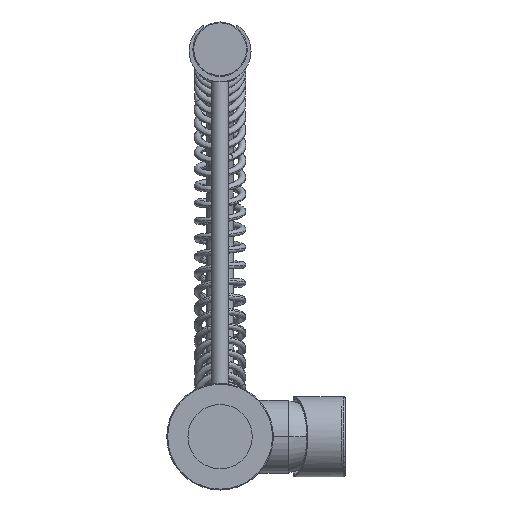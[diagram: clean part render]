
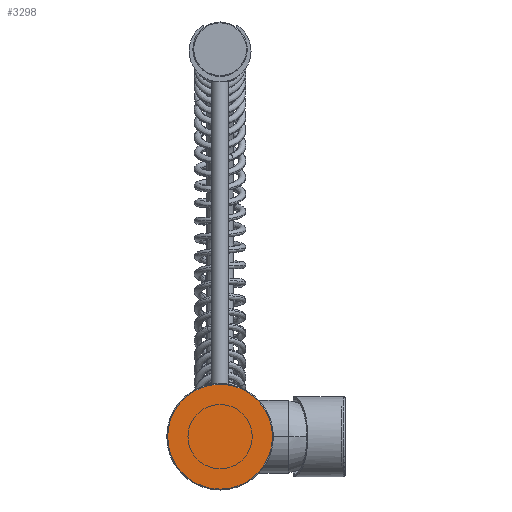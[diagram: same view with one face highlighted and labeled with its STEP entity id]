
A CAD part, front view. The second image highlights one B-rep face of the part: STEP entity #3298.
In plain terms, the highlighted planar face has unit normal (0, -1, 0).
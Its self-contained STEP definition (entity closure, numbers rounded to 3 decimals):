
#948=CARTESIAN_POINT('',(0.,-6.7,0.));
#949=DIRECTION('',(0.,-1.,0.));
#950=DIRECTION('',(1.,0.,0.));
#951=AXIS2_PLACEMENT_3D('',#948,#949,#950);
#957=CARTESIAN_POINT('',(0.,-6.7,0.));
#958=DIRECTION('',(0.,-1.,0.));
#959=DIRECTION('',(-1.,0.,0.));
#960=AXIS2_PLACEMENT_3D('',#957,#958,#959);
#2082=CARTESIAN_POINT('',(-29.35,-6.7,
0.));
#2083=VERTEX_POINT('',#2082);
#2084=CARTESIAN_POINT('',(29.35,-6.7,
0.));
#2085=VERTEX_POINT('',#2084);
#3288=CARTESIAN_POINT('',(0.,-6.7,0.));
#3289=DIRECTION('',(0.,1.,0.));
#3290=DIRECTION('',(1.,0.,0.));
#3291=AXIS2_PLACEMENT_3D('',#3288,#3289,#3290);
#3292=PLANE('',#3291);
#3293=ORIENTED_EDGE('',*,*,#3278,.F.);
#3295=ORIENTED_EDGE('',*,*,#3294,.F.);
#3296=EDGE_LOOP('',(#3293,#3295));
#3297=FACE_OUTER_BOUND('',#3296,.F.);
#3298=ADVANCED_FACE('',(#3297),#3292,.F.);
#952=CIRCLE('',#951,29.35);
#961=CIRCLE('',#960,29.35);
#3278=EDGE_CURVE('',#2085,#2083,#952,.T.);
#3294=EDGE_CURVE('',#2083,#2085,#961,.T.);
